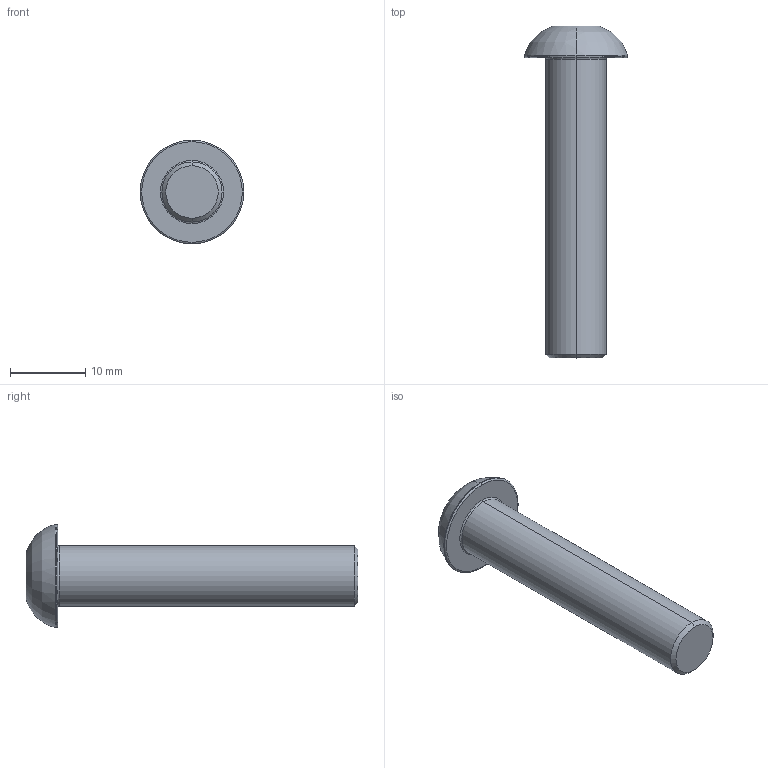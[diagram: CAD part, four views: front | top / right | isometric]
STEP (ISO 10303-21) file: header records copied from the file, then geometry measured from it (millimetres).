
FILE_DESCRIPTION (( 'STEP AP203' ), '1' );
FILE_NAME ('LGDD-TD-M8x40.STEP', '2026-08-14T02:00:00', ( '' ), ( '' ), 'SwSTEP 2.0', 'SolidWorks 2020', '' );
FILE_SCHEMA (( 'CONFIG_CONTROL_DESIGN' ));
Length unit declared in the file: millimetre
Products named in the file (1): LGDD-TD-M8x40
Bounding box: 13.8 x 44.2 x 13.8 mm (x, y, z)
Volume: 2384.3 mm3; surface area: 1435.3 mm2
Topology: 1 solids, 1 shells, 31 faces, 59 edges, 32 vertices
Faces by surface type: plane 10, cone 9, torus 8, cylinder 4
Entity records: 860 total; most frequent: CARTESIAN_POINT 150, DIRECTION 149, ORIENTED_EDGE 118, AXIS2_PLACEMENT_3D 65, EDGE_CURVE 59, CIRCLE 33, EDGE_LOOP 33, VERTEX_POINT 32
